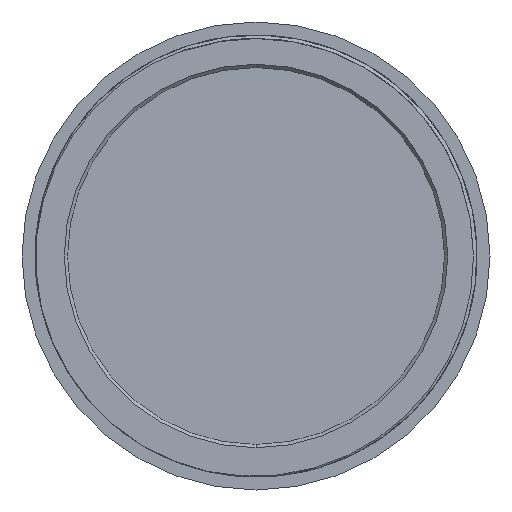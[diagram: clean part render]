
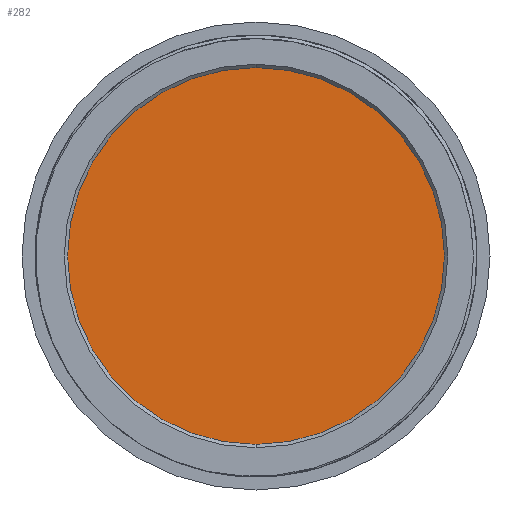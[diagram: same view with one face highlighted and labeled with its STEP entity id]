
A CAD part, front view. The second image highlights one B-rep face of the part: STEP entity #282.
In plain terms, the highlighted planar face has unit normal (0, -1, 0).
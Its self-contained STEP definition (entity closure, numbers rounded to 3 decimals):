
#239 = CARTESIAN_POINT ( 'NONE',  ( 0., 2.3, 15.25 ) ) ;
#282 = ADVANCED_FACE ( 'NONE', ( #306 ), #2159, .F. ) ;
#288 = DIRECTION ( 'NONE',  ( 0., 0., 1. ) ) ;
#306 = FACE_OUTER_BOUND ( 'NONE', #1141, .T. ) ;
#324 = AXIS2_PLACEMENT_3D ( 'NONE', #1916, #2823, #803 ) ;
#531 = DIRECTION ( 'NONE',  ( 0., 1., 0. ) ) ;
#538 = DIRECTION ( 'NONE',  ( 0., 1., 0. ) ) ;
#803 = DIRECTION ( 'NONE',  ( 0., 0., 1. ) ) ;
#818 = EDGE_CURVE ( 'NONE', #2530, #1487, #899, .T. ) ;
#899 = CIRCLE ( 'NONE', #324, 15.25 ) ;
#937 = CIRCLE ( 'NONE', #2768, 15.25 ) ;
#1029 = ORIENTED_EDGE ( 'NONE', *, *, #2042, .F. ) ;
#1141 = EDGE_LOOP ( 'NONE', ( #2012, #1029 ) ) ;
#1292 = AXIS2_PLACEMENT_3D ( 'NONE', #2381, #531, #2179 ) ;
#1487 = VERTEX_POINT ( 'NONE', #239 ) ;
#1678 = CARTESIAN_POINT ( 'NONE',  ( 0., 2.3, 0. ) ) ;
#1916 = CARTESIAN_POINT ( 'NONE',  ( 0., 2.3, 0. ) ) ;
#2012 = ORIENTED_EDGE ( 'NONE', *, *, #818, .F. ) ;
#2042 = EDGE_CURVE ( 'NONE', #1487, #2530, #937, .T. ) ;
#2159 = PLANE ( 'NONE',  #1292 ) ;
#2179 = DIRECTION ( 'NONE',  ( 0., 0., 1. ) ) ;
#2381 = CARTESIAN_POINT ( 'NONE',  ( 0., 2.3, 0. ) ) ;
#2530 = VERTEX_POINT ( 'NONE', #2641 ) ;
#2641 = CARTESIAN_POINT ( 'NONE',  ( 0., 2.3, -15.25 ) ) ;
#2768 = AXIS2_PLACEMENT_3D ( 'NONE', #1678, #538, #288 ) ;
#2823 = DIRECTION ( 'NONE',  ( 0., 1., 0. ) ) ;
